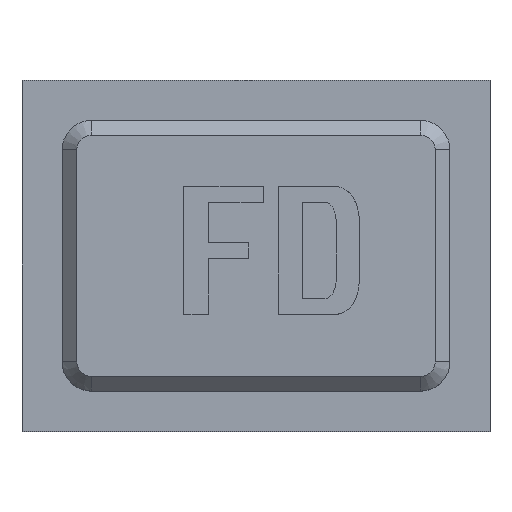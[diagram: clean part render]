
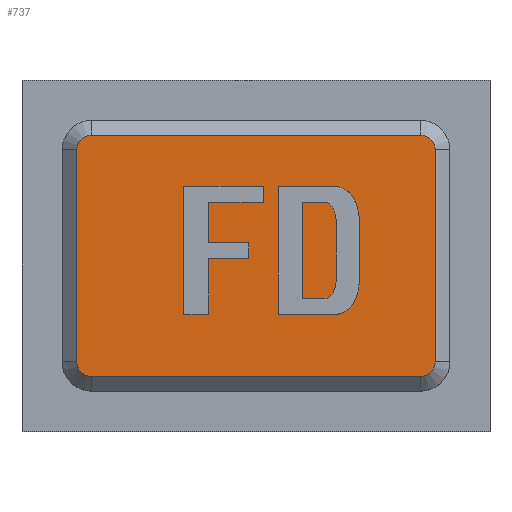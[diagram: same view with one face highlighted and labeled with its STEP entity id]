
A CAD part, top view. The second image highlights one B-rep face of the part: STEP entity #737.
In plain terms, the highlighted planar face has unit normal (0, 0, 1).
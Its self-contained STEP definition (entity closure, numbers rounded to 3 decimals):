
#72 = PLANE('',#73);
#73 = AXIS2_PLACEMENT_3D('',#74,#75,#76);
#74 = CARTESIAN_POINT('',(2.375,1.625,4.25));
#75 = DIRECTION('',(0.,0.707,-0.707));
#76 = DIRECTION('',(-1.,-0.,-0.));
#213 = CONICAL_SURFACE('',#214,1.,0.785);
#214 = AXIS2_PLACEMENT_3D('',#215,#216,#217);
#215 = CARTESIAN_POINT('',(2.375,2.375,4.));
#216 = DIRECTION('',(-0.,-0.,-1.));
#217 = DIRECTION('',(-1.,0.,0.));
#229 = VERTEX_POINT('',#230);
#230 = CARTESIAN_POINT('',(2.375,1.875,4.5));
#253 = VERTEX_POINT('',#254);
#254 = CARTESIAN_POINT('',(13.625,1.875,4.5));
#268 = CONICAL_SURFACE('',#269,1.,0.785);
#269 = AXIS2_PLACEMENT_3D('',#270,#271,#272);
#270 = CARTESIAN_POINT('',(13.625,2.375,4.));
#271 = DIRECTION('',(-0.,-0.,-1.));
#272 = DIRECTION('',(0.,-1.,0.));
#280 = EDGE_CURVE('',#229,#253,#281,.T.);
#281 = SURFACE_CURVE('',#282,(#286,#293),.PCURVE_S1.);
#282 = LINE('',#283,#284);
#283 = CARTESIAN_POINT('',(2.375,1.875,4.5));
#284 = VECTOR('',#285,1.);
#285 = DIRECTION('',(1.,0.,0.));
#286 = PCURVE('',#72,#287);
#287 = DEFINITIONAL_REPRESENTATION('',(#288),#292);
#288 = LINE('',#289,#290);
#289 = CARTESIAN_POINT('',(-0.,0.354));
#290 = VECTOR('',#291,1.);
#291 = DIRECTION('',(-1.,0.));
#292 = ( GEOMETRIC_REPRESENTATION_CONTEXT(2) 
PARAMETRIC_REPRESENTATION_CONTEXT() REPRESENTATION_CONTEXT('2D SPACE',''
  ) );
#293 = PCURVE('',#294,#299);
#294 = PLANE('',#295);
#295 = AXIS2_PLACEMENT_3D('',#296,#297,#298);
#296 = CARTESIAN_POINT('',(8.,6.,4.5));
#297 = DIRECTION('',(0.,0.,1.));
#298 = DIRECTION('',(1.,0.,0.));
#299 = DEFINITIONAL_REPRESENTATION('',(#300),#304);
#300 = LINE('',#301,#302);
#301 = CARTESIAN_POINT('',(-5.625,-4.125));
#302 = VECTOR('',#303,1.);
#303 = DIRECTION('',(1.,0.));
#304 = ( GEOMETRIC_REPRESENTATION_CONTEXT(2) 
PARAMETRIC_REPRESENTATION_CONTEXT() REPRESENTATION_CONTEXT('2D SPACE',''
  ) );
#638 = VERTEX_POINT('',#639);
#639 = CARTESIAN_POINT('',(1.875,2.375,4.5));
#653 = PLANE('',#654);
#654 = AXIS2_PLACEMENT_3D('',#655,#656,#657);
#655 = CARTESIAN_POINT('',(1.625,9.625,4.25));
#656 = DIRECTION('',(0.707,0.,-0.707));
#657 = DIRECTION('',(0.,1.,0.));
#667 = EDGE_CURVE('',#638,#229,#668,.T.);
#668 = SURFACE_CURVE('',#669,(#674,#681),.PCURVE_S1.);
#669 = CIRCLE('',#670,0.5);
#670 = AXIS2_PLACEMENT_3D('',#671,#672,#673);
#671 = CARTESIAN_POINT('',(2.375,2.375,4.5));
#672 = DIRECTION('',(0.,0.,1.));
#673 = DIRECTION('',(-1.,0.,0.));
#674 = PCURVE('',#213,#675);
#675 = DEFINITIONAL_REPRESENTATION('',(#676),#680);
#676 = LINE('',#677,#678);
#677 = CARTESIAN_POINT('',(-0.,-0.5));
#678 = VECTOR('',#679,1.);
#679 = DIRECTION('',(-1.,-0.));
#680 = ( GEOMETRIC_REPRESENTATION_CONTEXT(2) 
PARAMETRIC_REPRESENTATION_CONTEXT() REPRESENTATION_CONTEXT('2D SPACE',''
  ) );
#681 = PCURVE('',#294,#682);
#682 = DEFINITIONAL_REPRESENTATION('',(#683),#687);
#683 = CIRCLE('',#684,0.5);
#684 = AXIS2_PLACEMENT_2D('',#685,#686);
#685 = CARTESIAN_POINT('',(-5.625,-3.625));
#686 = DIRECTION('',(-1.,0.));
#687 = ( GEOMETRIC_REPRESENTATION_CONTEXT(2) 
PARAMETRIC_REPRESENTATION_CONTEXT() REPRESENTATION_CONTEXT('2D SPACE',''
  ) );
#737 = ADVANCED_FACE('',(#738),#294,.T.);
#738 = FACE_BOUND('',#739,.T.);
#739 = EDGE_LOOP('',(#740,#763,#764,#765,#789,#817,#846,#874));
#740 = ORIENTED_EDGE('',*,*,#741,.T.);
#741 = EDGE_CURVE('',#742,#638,#744,.T.);
#742 = VERTEX_POINT('',#743);
#743 = CARTESIAN_POINT('',(1.875,9.625,4.5));
#744 = SURFACE_CURVE('',#745,(#749,#756),.PCURVE_S1.);
#745 = LINE('',#746,#747);
#746 = CARTESIAN_POINT('',(1.875,9.625,4.5));
#747 = VECTOR('',#748,1.);
#748 = DIRECTION('',(0.,-1.,0.));
#749 = PCURVE('',#294,#750);
#750 = DEFINITIONAL_REPRESENTATION('',(#751),#755);
#751 = LINE('',#752,#753);
#752 = CARTESIAN_POINT('',(-6.125,3.625));
#753 = VECTOR('',#754,1.);
#754 = DIRECTION('',(0.,-1.));
#755 = ( GEOMETRIC_REPRESENTATION_CONTEXT(2) 
PARAMETRIC_REPRESENTATION_CONTEXT() REPRESENTATION_CONTEXT('2D SPACE',''
  ) );
#756 = PCURVE('',#653,#757);
#757 = DEFINITIONAL_REPRESENTATION('',(#758),#762);
#758 = LINE('',#759,#760);
#759 = CARTESIAN_POINT('',(-0.,0.354));
#760 = VECTOR('',#761,1.);
#761 = DIRECTION('',(-1.,0.));
#762 = ( GEOMETRIC_REPRESENTATION_CONTEXT(2) 
PARAMETRIC_REPRESENTATION_CONTEXT() REPRESENTATION_CONTEXT('2D SPACE',''
  ) );
#763 = ORIENTED_EDGE('',*,*,#667,.T.);
#764 = ORIENTED_EDGE('',*,*,#280,.T.);
#765 = ORIENTED_EDGE('',*,*,#766,.T.);
#766 = EDGE_CURVE('',#253,#767,#769,.T.);
#767 = VERTEX_POINT('',#768);
#768 = CARTESIAN_POINT('',(14.125,2.375,4.5));
#769 = SURFACE_CURVE('',#770,(#775,#782),.PCURVE_S1.);
#770 = CIRCLE('',#771,0.5);
#771 = AXIS2_PLACEMENT_3D('',#772,#773,#774);
#772 = CARTESIAN_POINT('',(13.625,2.375,4.5));
#773 = DIRECTION('',(-0.,0.,1.));
#774 = DIRECTION('',(0.,-1.,0.));
#775 = PCURVE('',#294,#776);
#776 = DEFINITIONAL_REPRESENTATION('',(#777),#781);
#777 = CIRCLE('',#778,0.5);
#778 = AXIS2_PLACEMENT_2D('',#779,#780);
#779 = CARTESIAN_POINT('',(5.625,-3.625));
#780 = DIRECTION('',(0.,-1.));
#781 = ( GEOMETRIC_REPRESENTATION_CONTEXT(2) 
PARAMETRIC_REPRESENTATION_CONTEXT() REPRESENTATION_CONTEXT('2D SPACE',''
  ) );
#782 = PCURVE('',#268,#783);
#783 = DEFINITIONAL_REPRESENTATION('',(#784),#788);
#784 = LINE('',#785,#786);
#785 = CARTESIAN_POINT('',(-0.,-0.5));
#786 = VECTOR('',#787,1.);
#787 = DIRECTION('',(-1.,-0.));
#788 = ( GEOMETRIC_REPRESENTATION_CONTEXT(2) 
PARAMETRIC_REPRESENTATION_CONTEXT() REPRESENTATION_CONTEXT('2D SPACE',''
  ) );
#789 = ORIENTED_EDGE('',*,*,#790,.T.);
#790 = EDGE_CURVE('',#767,#791,#793,.T.);
#791 = VERTEX_POINT('',#792);
#792 = CARTESIAN_POINT('',(14.125,9.625,4.5));
#793 = SURFACE_CURVE('',#794,(#798,#805),.PCURVE_S1.);
#794 = LINE('',#795,#796);
#795 = CARTESIAN_POINT('',(14.125,2.375,4.5));
#796 = VECTOR('',#797,1.);
#797 = DIRECTION('',(0.,1.,0.));
#798 = PCURVE('',#294,#799);
#799 = DEFINITIONAL_REPRESENTATION('',(#800),#804);
#800 = LINE('',#801,#802);
#801 = CARTESIAN_POINT('',(6.125,-3.625));
#802 = VECTOR('',#803,1.);
#803 = DIRECTION('',(0.,1.));
#804 = ( GEOMETRIC_REPRESENTATION_CONTEXT(2) 
PARAMETRIC_REPRESENTATION_CONTEXT() REPRESENTATION_CONTEXT('2D SPACE',''
  ) );
#805 = PCURVE('',#806,#811);
#806 = PLANE('',#807);
#807 = AXIS2_PLACEMENT_3D('',#808,#809,#810);
#808 = CARTESIAN_POINT('',(14.375,2.375,4.25));
#809 = DIRECTION('',(-0.707,0.,-0.707));
#810 = DIRECTION('',(-0.,-1.,-0.));
#811 = DEFINITIONAL_REPRESENTATION('',(#812),#816);
#812 = LINE('',#813,#814);
#813 = CARTESIAN_POINT('',(-0.,0.354));
#814 = VECTOR('',#815,1.);
#815 = DIRECTION('',(-1.,0.));
#816 = ( GEOMETRIC_REPRESENTATION_CONTEXT(2) 
PARAMETRIC_REPRESENTATION_CONTEXT() REPRESENTATION_CONTEXT('2D SPACE',''
  ) );
#817 = ORIENTED_EDGE('',*,*,#818,.T.);
#818 = EDGE_CURVE('',#791,#819,#821,.T.);
#819 = VERTEX_POINT('',#820);
#820 = CARTESIAN_POINT('',(13.625,10.125,4.5));
#821 = SURFACE_CURVE('',#822,(#827,#834),.PCURVE_S1.);
#822 = CIRCLE('',#823,0.5);
#823 = AXIS2_PLACEMENT_3D('',#824,#825,#826);
#824 = CARTESIAN_POINT('',(13.625,9.625,4.5));
#825 = DIRECTION('',(0.,0.,1.));
#826 = DIRECTION('',(1.,0.,0.));
#827 = PCURVE('',#294,#828);
#828 = DEFINITIONAL_REPRESENTATION('',(#829),#833);
#829 = CIRCLE('',#830,0.5);
#830 = AXIS2_PLACEMENT_2D('',#831,#832);
#831 = CARTESIAN_POINT('',(5.625,3.625));
#832 = DIRECTION('',(1.,0.));
#833 = ( GEOMETRIC_REPRESENTATION_CONTEXT(2) 
PARAMETRIC_REPRESENTATION_CONTEXT() REPRESENTATION_CONTEXT('2D SPACE',''
  ) );
#834 = PCURVE('',#835,#840);
#835 = CONICAL_SURFACE('',#836,1.,0.785);
#836 = AXIS2_PLACEMENT_3D('',#837,#838,#839);
#837 = CARTESIAN_POINT('',(13.625,9.625,4.));
#838 = DIRECTION('',(-0.,-0.,-1.));
#839 = DIRECTION('',(1.,0.,0.));
#840 = DEFINITIONAL_REPRESENTATION('',(#841),#845);
#841 = LINE('',#842,#843);
#842 = CARTESIAN_POINT('',(-0.,-0.5));
#843 = VECTOR('',#844,1.);
#844 = DIRECTION('',(-1.,-0.));
#845 = ( GEOMETRIC_REPRESENTATION_CONTEXT(2) 
PARAMETRIC_REPRESENTATION_CONTEXT() REPRESENTATION_CONTEXT('2D SPACE',''
  ) );
#846 = ORIENTED_EDGE('',*,*,#847,.T.);
#847 = EDGE_CURVE('',#819,#848,#850,.T.);
#848 = VERTEX_POINT('',#849);
#849 = CARTESIAN_POINT('',(2.375,10.125,4.5));
#850 = SURFACE_CURVE('',#851,(#855,#862),.PCURVE_S1.);
#851 = LINE('',#852,#853);
#852 = CARTESIAN_POINT('',(13.625,10.125,4.5));
#853 = VECTOR('',#854,1.);
#854 = DIRECTION('',(-1.,0.,0.));
#855 = PCURVE('',#294,#856);
#856 = DEFINITIONAL_REPRESENTATION('',(#857),#861);
#857 = LINE('',#858,#859);
#858 = CARTESIAN_POINT('',(5.625,4.125));
#859 = VECTOR('',#860,1.);
#860 = DIRECTION('',(-1.,0.));
#861 = ( GEOMETRIC_REPRESENTATION_CONTEXT(2) 
PARAMETRIC_REPRESENTATION_CONTEXT() REPRESENTATION_CONTEXT('2D SPACE',''
  ) );
#862 = PCURVE('',#863,#868);
#863 = PLANE('',#864);
#864 = AXIS2_PLACEMENT_3D('',#865,#866,#867);
#865 = CARTESIAN_POINT('',(13.625,10.375,4.25));
#866 = DIRECTION('',(0.,-0.707,-0.707));
#867 = DIRECTION('',(1.,0.,0.));
#868 = DEFINITIONAL_REPRESENTATION('',(#869),#873);
#869 = LINE('',#870,#871);
#870 = CARTESIAN_POINT('',(-0.,0.354));
#871 = VECTOR('',#872,1.);
#872 = DIRECTION('',(-1.,0.));
#873 = ( GEOMETRIC_REPRESENTATION_CONTEXT(2) 
PARAMETRIC_REPRESENTATION_CONTEXT() REPRESENTATION_CONTEXT('2D SPACE',''
  ) );
#874 = ORIENTED_EDGE('',*,*,#875,.T.);
#875 = EDGE_CURVE('',#848,#742,#876,.T.);
#876 = SURFACE_CURVE('',#877,(#882,#889),.PCURVE_S1.);
#877 = CIRCLE('',#878,0.5);
#878 = AXIS2_PLACEMENT_3D('',#879,#880,#881);
#879 = CARTESIAN_POINT('',(2.375,9.625,4.5));
#880 = DIRECTION('',(0.,-0.,1.));
#881 = DIRECTION('',(0.,1.,0.));
#882 = PCURVE('',#294,#883);
#883 = DEFINITIONAL_REPRESENTATION('',(#884),#888);
#884 = CIRCLE('',#885,0.5);
#885 = AXIS2_PLACEMENT_2D('',#886,#887);
#886 = CARTESIAN_POINT('',(-5.625,3.625));
#887 = DIRECTION('',(0.,1.));
#888 = ( GEOMETRIC_REPRESENTATION_CONTEXT(2) 
PARAMETRIC_REPRESENTATION_CONTEXT() REPRESENTATION_CONTEXT('2D SPACE',''
  ) );
#889 = PCURVE('',#890,#895);
#890 = CONICAL_SURFACE('',#891,1.,0.785);
#891 = AXIS2_PLACEMENT_3D('',#892,#893,#894);
#892 = CARTESIAN_POINT('',(2.375,9.625,4.));
#893 = DIRECTION('',(-0.,-0.,-1.));
#894 = DIRECTION('',(0.,1.,0.));
#895 = DEFINITIONAL_REPRESENTATION('',(#896),#900);
#896 = LINE('',#897,#898);
#897 = CARTESIAN_POINT('',(-0.,-0.5));
#898 = VECTOR('',#899,1.);
#899 = DIRECTION('',(-1.,-0.));
#900 = ( GEOMETRIC_REPRESENTATION_CONTEXT(2) 
PARAMETRIC_REPRESENTATION_CONTEXT() REPRESENTATION_CONTEXT('2D SPACE',''
  ) );
